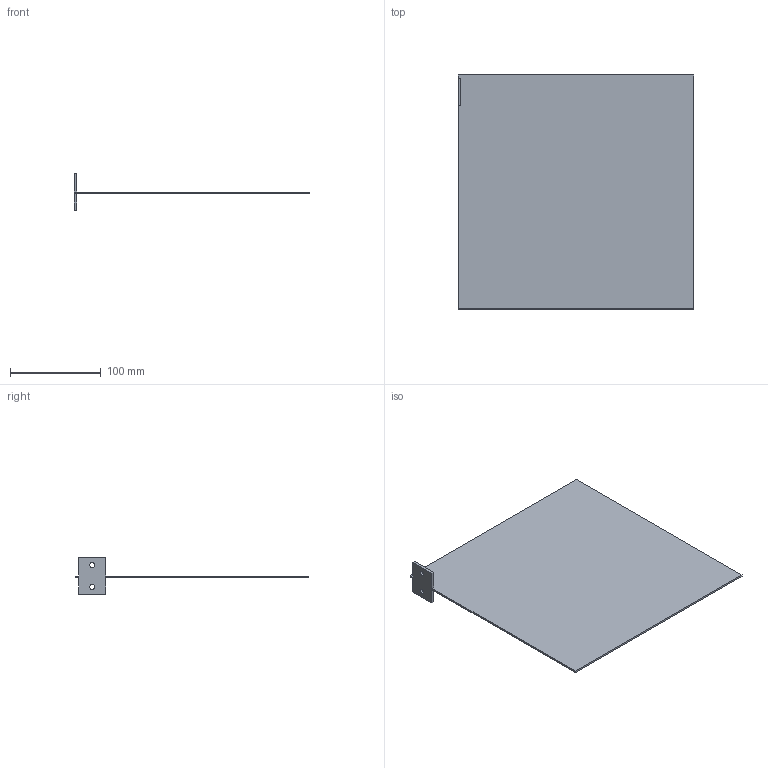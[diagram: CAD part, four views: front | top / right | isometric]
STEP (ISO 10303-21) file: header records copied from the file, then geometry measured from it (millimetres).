
FILE_DESCRIPTION(('golf model'),'2;1');
FILE_NAME('golf','',(''),(''),'golf_step_io','golf','');
FILE_SCHEMA(('AUTOMOTIVE_DESIGN { 1 0 10303 214 1 1 1 1 }'));
Length unit declared in the file: millimetre
Products named in the file (2): ASSEMBLY; ducts.tray
Assembly tree (1 placements, depth 2):
  ASSEMBLY
    ducts.tray
Bounding box: 259.5 x 257.82 x 40 mm (x, y, z)
Volume: 137087 mm3; surface area: 138395.5 mm2
Topology: 1 solids, 1 shells, 16 faces, 42 edges, 28 vertices
Faces by surface type: plane 14, cylinder 2
Full cylindrical faces by diameter (mm): 5.5 x2
Entity records: 522 total; most frequent: CARTESIAN_POINT 86, DIRECTION 80, ORIENTED_EDGE 80, EDGE_CURVE 40, VECTOR 36, LINE 36, VERTEX_POINT 28, AXIS2_PLACEMENT_3D 22
